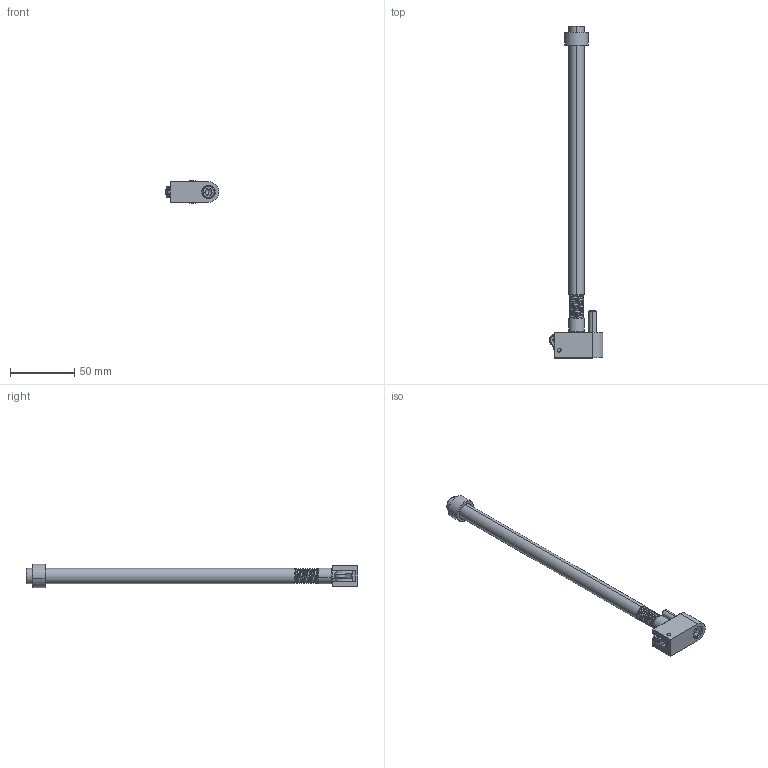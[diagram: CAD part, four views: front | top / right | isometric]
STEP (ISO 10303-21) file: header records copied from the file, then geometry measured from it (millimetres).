
FILE_DESCRIPTION (( 'STEP AP214' ), '1' );
FILE_NAME ('RA163812.STEP', '2015-03-03T11:20:11', ( '' ), ( '' ), 'SwSTEP 2.0', 'SolidWorks 2014', '' );
FILE_SCHEMA (( 'AUTOMOTIVE_DESIGN' ));
Length unit declared in the file: millimetre
Products named in the file (11): RA163812; Parallel Pin Hardened_DIN_Parallel Pin ISO 8734 - 3 x 16 - A - St; Socket Head Cap Screw_DIN_DIN 912 M6 x 30 --- 30C; 1CP-RA_3d; 3ra-ANCLAJE-INT_3d; 3RA-RODILLO-INT_3d; 3RA-VARILLA_3d; Parallel Pin Hardened_DIN_Parallel Pin ISO 8734 - 3 x 8 - A - St; 3RA-CUERPO-EXT_3d; 3RA-casq_3d; 3Muelle-RA-comprimido_3d
Assembly tree (11 placements, depth 2):
  RA163812
    3RA-CUERPO-EXT_3d
    1CP-RA_3d
    3ra-ANCLAJE-INT_3d
    3RA-RODILLO-INT_3d
    3RA-VARILLA_3d
    3Muelle-RA-comprimido_3d
    Parallel Pin Hardened_DIN_Parallel Pin ISO 8734 - 3 x 8 - A - St  x2
    Parallel Pin Hardened_DIN_Parallel Pin ISO 8734 - 3 x 16 - A - St
    3RA-casq_3d
    Socket Head Cap Screw_DIN_DIN 912 M6 x 30 --- 30C
Bounding box: 41.82 x 258.27 x 17.98 mm (x, y, z)
Volume: 37236.8 mm3; surface area: 19695.2 mm2
Topology: 11 solids, 11 shells, 303 faces, 683 edges, 396 vertices
Faces by surface type: cylinder 101, plane 73, torus 61, cone 33, bspline 19, sphere 16
Entity records: 11435 total; most frequent: CARTESIAN_POINT 4234, DIRECTION 1557, ORIENTED_EDGE 1318, AXIS2_PLACEMENT_3D 664, EDGE_CURVE 659, VERTEX_POINT 388, CIRCLE 374, EDGE_LOOP 323
